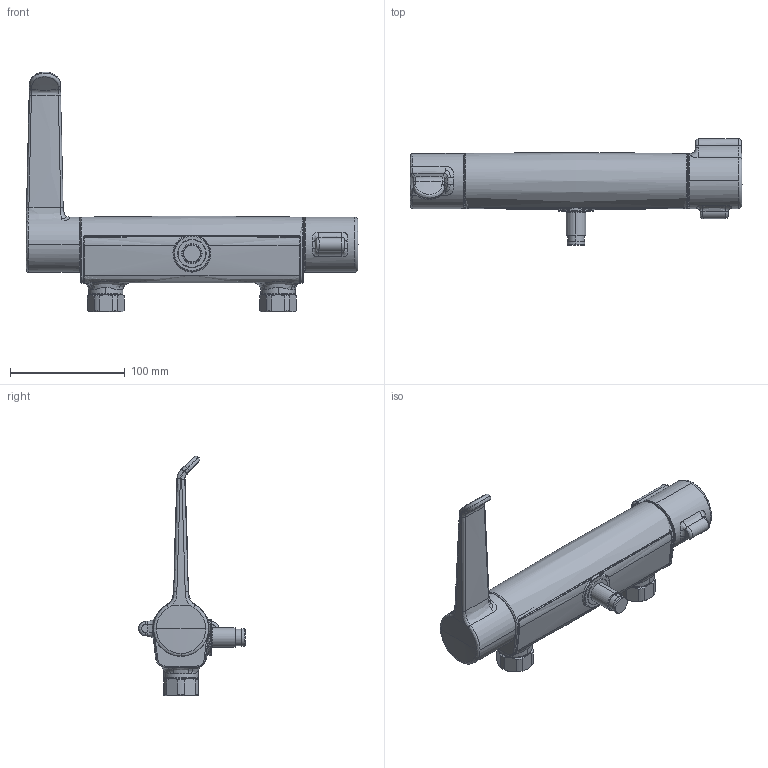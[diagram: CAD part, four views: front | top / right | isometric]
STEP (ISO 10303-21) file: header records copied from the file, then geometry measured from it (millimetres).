
FILE_DESCRIPTION (( 'STEP AP203' ), '1' );
FILE_NAME ('5667(2021).STEP', '2021-07-14T11:25:00', ( '' ), ( '' ), 'SwSTEP 2.0', 'SolidWorks 2016', '' );
FILE_SCHEMA (( 'CONFIG_CONTROL_DESIGN' ));
Length unit declared in the file: millimetre
Products named in the file (1): 5667(2021)
Bounding box: 288.92 x 92.69 x 208.71 mm (x, y, z)
Volume: 358024.9 mm3; surface area: 119677.6 mm2
Topology: 1 solids, 1 shells, 493 faces, 1174 edges, 696 vertices
Faces by surface type: bspline 200, cylinder 148, plane 66, cone 36, sphere 27, torus 16
Entity records: 30423 total; most frequent: CARTESIAN_POINT 20594, ORIENTED_EDGE 2324, DIRECTION 1629, EDGE_CURVE 1162, AXIS2_PLACEMENT_3D 698, VERTEX_POINT 696, EDGE_LOOP 522, FACE_OUTER_BOUND 493
